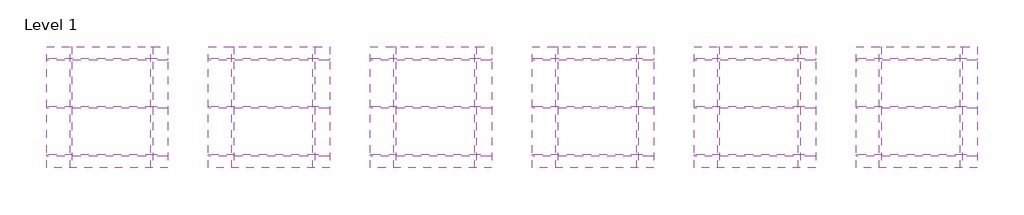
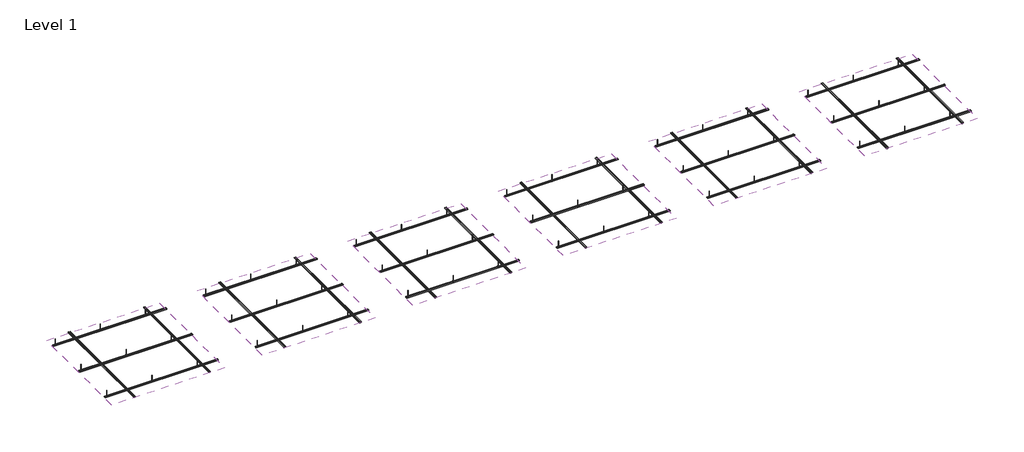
# One storey: 30 proxies, 6 coverings.
"""IFC4 building model written with IfcOpenShell, lengths in millimetres."""

from ifc_helpers import new_model, si_unit, frame, origin, place, context, project, spatial, polyline, outline, extrude, transform, mapped, element, save
from components import estructura_techo_placo_f_530_020da930, estructura_techo_placo_f_530_perfil_secundario_b405df22

model = new_model("IFC4")

# Units and contexts
model_context = context("Model", 3, world=origin())
ifc_project = project(units=[si_unit("LENGTHUNIT", "METRE", prefix="MILLI")], contexts=[model_context])

# Site, building, storey
site = spatial("IfcSite", under=ifc_project)
building = spatial("IfcBuilding", under=site)
storey = spatial("IfcBuildingStorey", under=building, Name="Level 1", Elevation=0.0)

# Proxies
placement = place(None, origin())
estructura_techo_placo_f_530_shape = estructura_techo_placo_f_530_020da930(model_context)
element("IfcBuildingElementProxy", 1, Name="Estructura-Techo_Placo_F-530 : Perfil Primario", ObjectType="Estructura-Techo_Placo_F-530 : Perfil Primario", at=placement, inside=storey, context=model_context, shape_type="MappedRepresentation", body=[
    mapped(estructura_techo_placo_f_530_shape, transform((-8529.2333262, 540.2900307, 2612.5), x_axis=(1.0, 0.0, 0.0), y_axis=(0.0, 1.0, 0.0), z_axis=(0.0, 0.0, 1.0))),
])
element("IfcBuildingElementProxy", 2, Name="Estructura-Techo_Placo_F-530 : Perfil Primario", ObjectType="Estructura-Techo_Placo_F-530 : Perfil Primario", at=placement, inside=storey, context=model_context, shape_type="MappedRepresentation", body=[
    mapped(estructura_techo_placo_f_530_shape, transform((-8529.2333262, 1728.2900307, 2612.5), x_axis=(1.0, 0.0, 0.0), y_axis=(0.0, 1.0, 0.0), z_axis=(0.0, 0.0, 1.0))),
])
element("IfcBuildingElementProxy", 3, Name="Estructura-Techo_Placo_F-530 : Perfil Primario", ObjectType="Estructura-Techo_Placo_F-530 : Perfil Primario", at=placement, inside=storey, context=model_context, shape_type="MappedRepresentation", body=[
    mapped(estructura_techo_placo_f_530_shape, transform((-8529.2333262, -647.7099693, 2612.5), x_axis=(1.0, 0.0, 0.0), y_axis=(0.0, 1.0, 0.0), z_axis=(0.0, 0.0, 1.0))),
])
element("IfcBuildingElementProxy", 4, Name="Estructura-Techo_Placo_F-530 : Perfil Primario", ObjectType="Estructura-Techo_Placo_F-530 : Perfil Primario", at=placement, inside=storey, context=model_context, shape_type="MappedRepresentation", body=[
    mapped(estructura_techo_placo_f_530_shape, transform((-4529.2333262, 540.2900307, 2612.5), x_axis=(1.0, 0.0, 0.0), y_axis=(0.0, 1.0, 0.0), z_axis=(0.0, 0.0, 1.0))),
])
element("IfcBuildingElementProxy", 5, Name="Estructura-Techo_Placo_F-530 : Perfil Primario", ObjectType="Estructura-Techo_Placo_F-530 : Perfil Primario", at=placement, inside=storey, context=model_context, shape_type="MappedRepresentation", body=[
    mapped(estructura_techo_placo_f_530_shape, transform((-4529.2333262, 1728.2900307, 2612.5), x_axis=(1.0, 0.0, 0.0), y_axis=(0.0, 1.0, 0.0), z_axis=(0.0, 0.0, 1.0))),
])
element("IfcBuildingElementProxy", 6, Name="Estructura-Techo_Placo_F-530 : Perfil Primario", ObjectType="Estructura-Techo_Placo_F-530 : Perfil Primario", at=placement, inside=storey, context=model_context, shape_type="MappedRepresentation", body=[
    mapped(estructura_techo_placo_f_530_shape, transform((-4529.2333262, -647.7099693, 2612.5), x_axis=(1.0, 0.0, 0.0), y_axis=(0.0, 1.0, 0.0), z_axis=(0.0, 0.0, 1.0))),
])
element("IfcBuildingElementProxy", 7, Name="Estructura-Techo_Placo_F-530 : Perfil Primario", ObjectType="Estructura-Techo_Placo_F-530 : Perfil Primario", at=placement, inside=storey, context=model_context, shape_type="MappedRepresentation", body=[
    mapped(estructura_techo_placo_f_530_shape, transform((-529.2333262, 540.2900307, 2612.5), x_axis=(1.0, 0.0, 0.0), y_axis=(0.0, 1.0, 0.0), z_axis=(0.0, 0.0, 1.0))),
])
element("IfcBuildingElementProxy", 8, Name="Estructura-Techo_Placo_F-530 : Perfil Primario", ObjectType="Estructura-Techo_Placo_F-530 : Perfil Primario", at=placement, inside=storey, context=model_context, shape_type="MappedRepresentation", body=[
    mapped(estructura_techo_placo_f_530_shape, transform((-529.2333262, 1728.2900307, 2612.5), x_axis=(1.0, 0.0, 0.0), y_axis=(0.0, 1.0, 0.0), z_axis=(0.0, 0.0, 1.0))),
])
element("IfcBuildingElementProxy", 9, Name="Estructura-Techo_Placo_F-530 : Perfil Primario", ObjectType="Estructura-Techo_Placo_F-530 : Perfil Primario", at=placement, inside=storey, context=model_context, shape_type="MappedRepresentation", body=[
    mapped(estructura_techo_placo_f_530_shape, transform((-529.2333262, -647.7099693, 2612.5), x_axis=(1.0, 0.0, 0.0), y_axis=(0.0, 1.0, 0.0), z_axis=(0.0, 0.0, 1.0))),
])
element("IfcBuildingElementProxy", 10, Name="Estructura-Techo_Placo_F-530 : Perfil Primario", ObjectType="Estructura-Techo_Placo_F-530 : Perfil Primario", at=placement, inside=storey, context=model_context, shape_type="MappedRepresentation", body=[
    mapped(estructura_techo_placo_f_530_shape, transform((3470.7666738, 540.2900307, 2612.5), x_axis=(1.0, 0.0, 0.0), y_axis=(0.0, 1.0, 0.0), z_axis=(0.0, 0.0, 1.0))),
])
element("IfcBuildingElementProxy", 11, Name="Estructura-Techo_Placo_F-530 : Perfil Primario", ObjectType="Estructura-Techo_Placo_F-530 : Perfil Primario", at=placement, inside=storey, context=model_context, shape_type="MappedRepresentation", body=[
    mapped(estructura_techo_placo_f_530_shape, transform((3470.7666738, 1728.2900307, 2612.5), x_axis=(1.0, 0.0, 0.0), y_axis=(0.0, 1.0, 0.0), z_axis=(0.0, 0.0, 1.0))),
])
element("IfcBuildingElementProxy", 12, Name="Estructura-Techo_Placo_F-530 : Perfil Primario", ObjectType="Estructura-Techo_Placo_F-530 : Perfil Primario", at=placement, inside=storey, context=model_context, shape_type="MappedRepresentation", body=[
    mapped(estructura_techo_placo_f_530_shape, transform((3470.7666738, -647.7099693, 2612.5), x_axis=(1.0, 0.0, 0.0), y_axis=(0.0, 1.0, 0.0), z_axis=(0.0, 0.0, 1.0))),
])
element("IfcBuildingElementProxy", 13, Name="Estructura-Techo_Placo_F-530 : Perfil Primario", ObjectType="Estructura-Techo_Placo_F-530 : Perfil Primario", at=placement, inside=storey, context=model_context, shape_type="MappedRepresentation", body=[
    mapped(estructura_techo_placo_f_530_shape, transform((7470.7666738, 540.2900307, 2612.5), x_axis=(1.0, 0.0, 0.0), y_axis=(0.0, 1.0, 0.0), z_axis=(0.0, 0.0, 1.0))),
])
element("IfcBuildingElementProxy", 14, Name="Estructura-Techo_Placo_F-530 : Perfil Primario", ObjectType="Estructura-Techo_Placo_F-530 : Perfil Primario", at=placement, inside=storey, context=model_context, shape_type="MappedRepresentation", body=[
    mapped(estructura_techo_placo_f_530_shape, transform((7470.7666738, 1728.2900307, 2612.5), x_axis=(1.0, 0.0, 0.0), y_axis=(0.0, 1.0, 0.0), z_axis=(0.0, 0.0, 1.0))),
])
element("IfcBuildingElementProxy", 15, Name="Estructura-Techo_Placo_F-530 : Perfil Primario", ObjectType="Estructura-Techo_Placo_F-530 : Perfil Primario", at=placement, inside=storey, context=model_context, shape_type="MappedRepresentation", body=[
    mapped(estructura_techo_placo_f_530_shape, transform((7470.7666738, -647.7099693, 2612.5), x_axis=(1.0, 0.0, 0.0), y_axis=(0.0, 1.0, 0.0), z_axis=(0.0, 0.0, 1.0))),
])
element("IfcBuildingElementProxy", 16, Name="Estructura-Techo_Placo_F-530 : Perfil Primario", ObjectType="Estructura-Techo_Placo_F-530 : Perfil Primario", at=placement, inside=storey, context=model_context, shape_type="MappedRepresentation", body=[
    mapped(estructura_techo_placo_f_530_shape, transform((11470.7666738, 540.2900307, 2612.5), x_axis=(1.0, 0.0, 0.0), y_axis=(0.0, 1.0, 0.0), z_axis=(0.0, 0.0, 1.0))),
])
element("IfcBuildingElementProxy", 17, Name="Estructura-Techo_Placo_F-530 : Perfil Primario", ObjectType="Estructura-Techo_Placo_F-530 : Perfil Primario", at=placement, inside=storey, context=model_context, shape_type="MappedRepresentation", body=[
    mapped(estructura_techo_placo_f_530_shape, transform((11470.7666738, 1728.2900307, 2612.5), x_axis=(1.0, 0.0, 0.0), y_axis=(0.0, 1.0, 0.0), z_axis=(0.0, 0.0, 1.0))),
])
element("IfcBuildingElementProxy", 18, Name="Estructura-Techo_Placo_F-530 : Perfil Primario", ObjectType="Estructura-Techo_Placo_F-530 : Perfil Primario", at=placement, inside=storey, context=model_context, shape_type="MappedRepresentation", body=[
    mapped(estructura_techo_placo_f_530_shape, transform((11470.7666738, -647.7099693, 2612.5), x_axis=(1.0, 0.0, 0.0), y_axis=(0.0, 1.0, 0.0), z_axis=(0.0, 0.0, 1.0))),
])
estructura_techo_placo_f_530_perfil_secundario_shape = estructura_techo_placo_f_530_perfil_secundario_b405df22(model_context)
element("IfcBuildingElementProxy", 19, Name="Estructura-Techo_Placo_F-530 : Perfil Secundario", ObjectType="Estructura-Techo_Placo_F-530 : Perfil Secundario", at=placement, inside=storey, context=model_context, shape_type="MappedRepresentation", body=[
    mapped(estructura_techo_placo_f_530_perfil_secundario_shape, transform((-7927.2333262, -959.7099693, 2612.5), x_axis=(0.0, 1.0, 0.0), y_axis=(-1.0, 0.0, 0.0), z_axis=(0.0, 0.0, 1.0))),
])
element("IfcBuildingElementProxy", 20, Name="Estructura-Techo_Placo_F-530 : Perfil Secundario", ObjectType="Estructura-Techo_Placo_F-530 : Perfil Secundario", at=placement, inside=storey, context=model_context, shape_type="MappedRepresentation", body=[
    mapped(estructura_techo_placo_f_530_perfil_secundario_shape, transform((-5929.2333262, -959.7099693, 2612.5), x_axis=(0.0, 1.0, 0.0), y_axis=(-1.0, 0.0, 0.0), z_axis=(0.0, 0.0, 1.0))),
])
element("IfcBuildingElementProxy", 21, Name="Estructura-Techo_Placo_F-530 : Perfil Secundario", ObjectType="Estructura-Techo_Placo_F-530 : Perfil Secundario", at=placement, inside=storey, context=model_context, shape_type="MappedRepresentation", body=[
    mapped(estructura_techo_placo_f_530_perfil_secundario_shape, transform((-3927.2333262, -959.7099693, 2612.5), x_axis=(0.0, 1.0, 0.0), y_axis=(-1.0, 0.0, 0.0), z_axis=(0.0, 0.0, 1.0))),
])
element("IfcBuildingElementProxy", 22, Name="Estructura-Techo_Placo_F-530 : Perfil Secundario", ObjectType="Estructura-Techo_Placo_F-530 : Perfil Secundario", at=placement, inside=storey, context=model_context, shape_type="MappedRepresentation", body=[
    mapped(estructura_techo_placo_f_530_perfil_secundario_shape, transform((-1929.2333262, -959.7099693, 2612.5), x_axis=(0.0, 1.0, 0.0), y_axis=(-1.0, 0.0, 0.0), z_axis=(0.0, 0.0, 1.0))),
])
element("IfcBuildingElementProxy", 23, Name="Estructura-Techo_Placo_F-530 : Perfil Secundario", ObjectType="Estructura-Techo_Placo_F-530 : Perfil Secundario", at=placement, inside=storey, context=model_context, shape_type="MappedRepresentation", body=[
    mapped(estructura_techo_placo_f_530_perfil_secundario_shape, transform((72.7666738, -959.7099693, 2612.5), x_axis=(0.0, 1.0, 0.0), y_axis=(-1.0, 0.0, 0.0), z_axis=(0.0, 0.0, 1.0))),
])
element("IfcBuildingElementProxy", 24, Name="Estructura-Techo_Placo_F-530 : Perfil Secundario", ObjectType="Estructura-Techo_Placo_F-530 : Perfil Secundario", at=placement, inside=storey, context=model_context, shape_type="MappedRepresentation", body=[
    mapped(estructura_techo_placo_f_530_perfil_secundario_shape, transform((2070.7666738, -959.7099693, 2612.5), x_axis=(0.0, 1.0, 0.0), y_axis=(-1.0, 0.0, 0.0), z_axis=(0.0, 0.0, 1.0))),
])
element("IfcBuildingElementProxy", 25, Name="Estructura-Techo_Placo_F-530 : Perfil Secundario", ObjectType="Estructura-Techo_Placo_F-530 : Perfil Secundario", at=placement, inside=storey, context=model_context, shape_type="MappedRepresentation", body=[
    mapped(estructura_techo_placo_f_530_perfil_secundario_shape, transform((4072.7666738, -959.7099693, 2612.5), x_axis=(0.0, 1.0, 0.0), y_axis=(-1.0, 0.0, 0.0), z_axis=(0.0, 0.0, 1.0))),
])
element("IfcBuildingElementProxy", 26, Name="Estructura-Techo_Placo_F-530 : Perfil Secundario", ObjectType="Estructura-Techo_Placo_F-530 : Perfil Secundario", at=placement, inside=storey, context=model_context, shape_type="MappedRepresentation", body=[
    mapped(estructura_techo_placo_f_530_perfil_secundario_shape, transform((6070.7666738, -959.7099693, 2612.5), x_axis=(0.0, 1.0, 0.0), y_axis=(-1.0, 0.0, 0.0), z_axis=(0.0, 0.0, 1.0))),
])
element("IfcBuildingElementProxy", 27, Name="Estructura-Techo_Placo_F-530 : Perfil Secundario", ObjectType="Estructura-Techo_Placo_F-530 : Perfil Secundario", at=placement, inside=storey, context=model_context, shape_type="MappedRepresentation", body=[
    mapped(estructura_techo_placo_f_530_perfil_secundario_shape, transform((8072.7666738, -959.7099693, 2612.5), x_axis=(0.0, 1.0, 0.0), y_axis=(-1.0, 0.0, 0.0), z_axis=(0.0, 0.0, 1.0))),
])
element("IfcBuildingElementProxy", 28, Name="Estructura-Techo_Placo_F-530 : Perfil Secundario", ObjectType="Estructura-Techo_Placo_F-530 : Perfil Secundario", at=placement, inside=storey, context=model_context, shape_type="MappedRepresentation", body=[
    mapped(estructura_techo_placo_f_530_perfil_secundario_shape, transform((10070.7666738, -959.7099693, 2612.5), x_axis=(0.0, 1.0, 0.0), y_axis=(-1.0, 0.0, 0.0), z_axis=(0.0, 0.0, 1.0))),
])
element("IfcBuildingElementProxy", 29, Name="Estructura-Techo_Placo_F-530 : Perfil Secundario", ObjectType="Estructura-Techo_Placo_F-530 : Perfil Secundario", at=placement, inside=storey, context=model_context, shape_type="MappedRepresentation", body=[
    mapped(estructura_techo_placo_f_530_perfil_secundario_shape, transform((12072.7666738, -959.7099693, 2612.5), x_axis=(0.0, 1.0, 0.0), y_axis=(-1.0, 0.0, 0.0), z_axis=(0.0, 0.0, 1.0))),
])
element("IfcBuildingElementProxy", 30, Name="Estructura-Techo_Placo_F-530 : Perfil Secundario", ObjectType="Estructura-Techo_Placo_F-530 : Perfil Secundario", at=placement, inside=storey, context=model_context, shape_type="MappedRepresentation", body=[
    mapped(estructura_techo_placo_f_530_perfil_secundario_shape, transform((14070.7666738, -959.7099693, 2612.5), x_axis=(0.0, 1.0, 0.0), y_axis=(-1.0, 0.0, 0.0), z_axis=(0.0, 0.0, 1.0))),
])

# Coverings
element("IfcCovering", 31, ObjectType="Techo continuo  Placo Silence Rigintone Activ'Air 8/18  con LM Isover - 0,70 αm", at=placement, inside=storey, context=model_context, shape_type="SweptSolid", body=[
    extrude(outline(polyline([(-5529.2333262, 2040.2900307), (-5529.2333262, -959.7099693), (-8529.2333262, -959.7099693), (-8529.2333262, 2040.2900307), (-5529.2333262, 2040.2900307)])), frame((0.0, 0.0, 2600.0), z_axis=(0.0, 0.0, 1.0), x_axis=(1.0, 0.0, 0.0)), (0.0, 0.0, 1.0), 212.5),
])
element("IfcCovering", 32, ObjectType="Techo continuo  Placo Silence Rigintone Activ'Air 8-15/20  con LM Isover - 0,35 αm", at=placement, inside=storey, context=model_context, shape_type="SweptSolid", body=[
    extrude(outline(polyline([(-1529.2333262, 2040.2900307), (-1529.2333262, -959.7099693), (-4529.2333262, -959.7099693), (-4529.2333262, 2040.2900307), (-1529.2333262, 2040.2900307)])), frame((0.0, 0.0, 2600.0), z_axis=(0.0, 0.0, 1.0), x_axis=(1.0, 0.0, 0.0)), (0.0, 0.0, 1.0), 212.5),
])
element("IfcCovering", 33, ObjectType="Techo continuo  Placo Silence Rigintone Activ'Air 8-15/20 Super  con LM Isover - 0,50 αm", at=placement, inside=storey, context=model_context, shape_type="SweptSolid", body=[
    extrude(outline(polyline([(2470.7666738, 2040.2900307), (2470.7666738, -959.7099693), (-529.2333262, -959.7099693), (-529.2333262, 2040.2900307), (2470.7666738, 2040.2900307)])), frame((0.0, 0.0, 2600.0), z_axis=(0.0, 0.0, 1.0), x_axis=(1.0, 0.0, 0.0)), (0.0, 0.0, 1.0), 212.5),
])
element("IfcCovering", 34, ObjectType="Techo continuo  Placo Silence Rigintone Activ'Air 8/18 Q con LM Isover - 0,75 αm", at=placement, inside=storey, context=model_context, shape_type="SweptSolid", body=[
    extrude(outline(polyline([(6470.7666738, 2040.2900307), (6470.7666738, -959.7099693), (3470.7666738, -959.7099693), (3470.7666738, 2040.2900307), (6470.7666738, 2040.2900307)])), frame((0.0, 0.0, 2600.0), z_axis=(0.0, 0.0, 1.0), x_axis=(1.0, 0.0, 0.0)), (0.0, 0.0, 1.0), 212.5),
])
element("IfcCovering", 35, ObjectType="Techo continuo  Placo Silence Rigintone Activ'Air 12/25 Q con LM Isover - 0,85 αm", at=placement, inside=storey, context=model_context, shape_type="SweptSolid", body=[
    extrude(outline(polyline([(10470.7666738, 2040.2900307), (10470.7666738, -959.7099693), (7470.7666738, -959.7099693), (7470.7666738, 2040.2900307), (10470.7666738, 2040.2900307)])), frame((0.0, 0.0, 2600.0), z_axis=(0.0, 0.0, 1.0), x_axis=(1.0, 0.0, 0.0)), (0.0, 0.0, 1.0), 212.5),
])
element("IfcCovering", 36, ObjectType="Techo continuo  Placo Silence Rigintone Activ'Air 12-20/66 Q con LM Isover - 0,70 αm", at=placement, inside=storey, context=model_context, shape_type="SweptSolid", body=[
    extrude(outline(polyline([(14470.7666738, 2040.2900307), (14470.7666738, -959.7099693), (11470.7666738, -959.7099693), (11470.7666738, 2040.2900307), (14470.7666738, 2040.2900307)])), frame((0.0, 0.0, 2600.0), z_axis=(0.0, 0.0, 1.0), x_axis=(1.0, 0.0, 0.0)), (0.0, 0.0, 1.0), 212.5),
])

save(model, "model.ifc")
